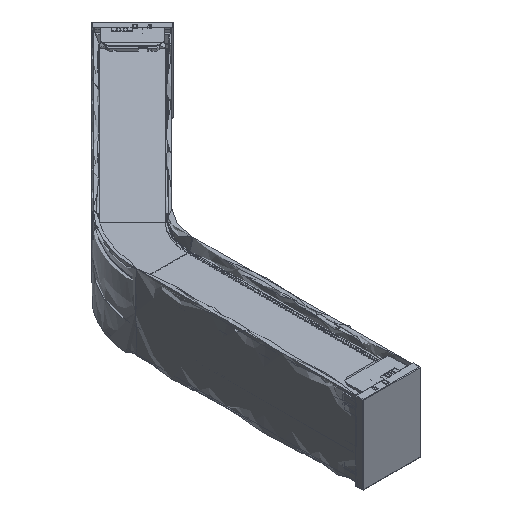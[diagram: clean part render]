
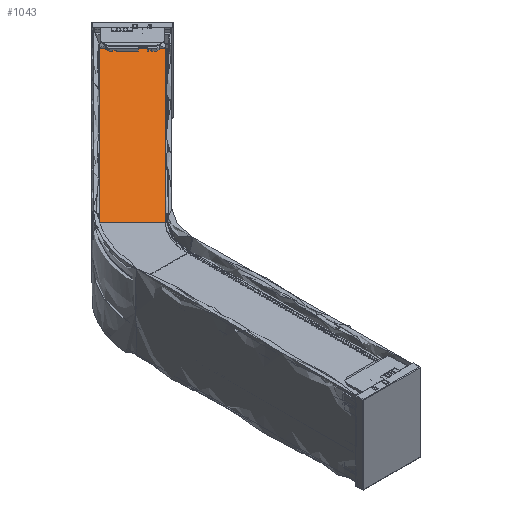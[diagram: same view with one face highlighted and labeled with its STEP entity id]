
A CAD part, isometric view. The second image highlights one B-rep face of the part: STEP entity #1043.
In plain terms, the highlighted free-form (B-spline) face has degree [1, 3] with [2, 4] control points.
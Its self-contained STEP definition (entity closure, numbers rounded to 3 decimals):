
#1043=ADVANCED_FACE('',(#2965),#68511,.T.);
#2965=FACE_OUTER_BOUND('',#4930,.T.);
#4930=EDGE_LOOP('',(#10908,#10909,#10910,#10911));
#10908=ORIENTED_EDGE('',*,*,#46466,.T.);
#10909=ORIENTED_EDGE('',*,*,#46465,.F.);
#10910=ORIENTED_EDGE('',*,*,#46448,.F.);
#10911=ORIENTED_EDGE('',*,*,#46467,.T.);
#22597=PCURVE('',#68502,#33109);
#22631=PCURVE('',#68510,#33143);
#22632=PCURVE('',#68511,#33144);
#22633=PCURVE('',#68511,#33145);
#22634=PCURVE('',#68511,#33146);
#22635=PCURVE('',#68511,#33147);
#22637=PCURVE('',#68512,#33149);
#22644=PCURVE('',#68514,#33156);
#33109=DEFINITIONAL_REPRESENTATION('',(#56157),#164247);
#33143=DEFINITIONAL_REPRESENTATION('',(#56208),#164247);
#33144=DEFINITIONAL_REPRESENTATION('',(#56210),#164247);
#33145=DEFINITIONAL_REPRESENTATION('',(#56211),#164247);
#33146=DEFINITIONAL_REPRESENTATION('',(#56212),#164247);
#33147=DEFINITIONAL_REPRESENTATION('',(#56214),#164247);
#33149=DEFINITIONAL_REPRESENTATION('',(#56217),#164247);
#33156=DEFINITIONAL_REPRESENTATION('',(#56226),#164247);
#41192=SURFACE_CURVE('',#56156,(#22597,#22634),.PCURVE_S1.);
#41209=SURFACE_CURVE('',#56207,(#22631,#22633),.PCURVE_S1.);
#41210=SURFACE_CURVE('',#56209,(#22632,#22644),.PCURVE_S1.);
#41211=SURFACE_CURVE('',#56213,(#22635,#22637),.PCURVE_S1.);
#46448=EDGE_CURVE('',#65400,#65397,#41192,.T.);
#46465=EDGE_CURVE('',#65397,#65405,#41209,.T.);
#46466=EDGE_CURVE('',#65407,#65405,#41210,.T.);
#46467=EDGE_CURVE('',#65400,#65407,#41211,.T.);
#56156=B_SPLINE_CURVE_WITH_KNOTS('',1,(#110891,#110892),.UNSPECIFIED.,.F.,
 .F.,(2,2),(-51.,0.),.UNSPECIFIED.);
#56157=B_SPLINE_CURVE_WITH_KNOTS('',1,(#110893,#110894),.UNSPECIFIED.,.F.,
 .F.,(2,2),(-51.,0.),.UNSPECIFIED.);
#56207=B_SPLINE_CURVE_WITH_KNOTS('',3,(#111014,#111015,#111016,#111017),
 .UNSPECIFIED.,.F.,.F.,(4,4),(0.,202.),.UNSPECIFIED.);
#56208=B_SPLINE_CURVE_WITH_KNOTS('',1,(#111018,#111019),.UNSPECIFIED.,.F.,
 .F.,(2,2),(0.,202.),.UNSPECIFIED.);
#56209=B_SPLINE_CURVE_WITH_KNOTS('',1,(#111020,#111021),.UNSPECIFIED.,.F.,
 .F.,(2,2),(1.5,47.5),.UNSPECIFIED.);
#56210=B_SPLINE_CURVE_WITH_KNOTS('',1,(#111022,#111023),.UNSPECIFIED.,.F.,
 .F.,(2,2),(1.5,47.5),.UNSPECIFIED.);
#56211=B_SPLINE_CURVE_WITH_KNOTS('',1,(#111024,#111025),.UNSPECIFIED.,.F.,
 .F.,(2,2),(0.,202.),.UNSPECIFIED.);
#56212=B_SPLINE_CURVE_WITH_KNOTS('',1,(#111026,#111027),.UNSPECIFIED.,.F.,
 .F.,(2,2),(-51.,0.),.UNSPECIFIED.);
#56213=B_SPLINE_CURVE_WITH_KNOTS('',3,(#111028,#111029,#111030,#111031),
 .UNSPECIFIED.,.F.,.F.,(4,4),(0.,202.),.UNSPECIFIED.);
#56214=B_SPLINE_CURVE_WITH_KNOTS('',1,(#111032,#111033),.UNSPECIFIED.,.F.,
 .F.,(2,2),(0.,202.),.UNSPECIFIED.);
#56217=B_SPLINE_CURVE_WITH_KNOTS('',1,(#111038,#111039),.UNSPECIFIED.,.F.,
 .F.,(2,2),(0.,202.),.UNSPECIFIED.);
#56226=B_SPLINE_CURVE_WITH_KNOTS('',1,(#111058,#111059),.UNSPECIFIED.,.F.,
 .F.,(2,2),(1.5,47.5),.UNSPECIFIED.);
#65397=VERTEX_POINT('',#110832);
#65400=VERTEX_POINT('',#110835);
#65405=VERTEX_POINT('',#110840);
#65407=VERTEX_POINT('',#110842);
#68502=B_SPLINE_SURFACE_WITH_KNOTS('',1,3,((#110690,#110691,#110692,#110693,
#110694,#110695,#110696,#110697,#110698,#110699,#110700),(#110701,#110702,
#110703,#110704,#110705,#110706,#110707,#110708,#110709,#110710,#110711)),
 .UNSPECIFIED.,.F.,.F.,.F.,(2,2),(4,1,1,1,1,1,1,1,4),(0.,51.),(0.,9.651,
19.444,29.332,39.27,49.207,59.096,
68.888,78.54),.UNSPECIFIED.);
#68510=B_SPLINE_SURFACE_WITH_KNOTS('',1,3,((#110792,#110793,#110794,#110795),
(#110796,#110797,#110798,#110799)),.UNSPECIFIED.,.F.,.F.,.F.,(2,2),(4,4),
(103.2,104.4),(0.,210.),.UNSPECIFIED.);
#68511=B_SPLINE_SURFACE_WITH_KNOTS('',1,3,((#110800,#110801,#110802,#110803),
(#110804,#110805,#110806,#110807)),.UNSPECIFIED.,.F.,.F.,.F.,(2,2),(4,4),
(0.,51.),(0.,210.),.UNSPECIFIED.);
#68512=B_SPLINE_SURFACE_WITH_KNOTS('',1,3,((#110808,#110809,#110810,#110811),
(#110812,#110813,#110814,#110815)),.UNSPECIFIED.,.F.,.F.,.F.,(2,2),(4,4),
(51.,52.2),(0.,210.),.UNSPECIFIED.);
#68514=B_SPLINE_SURFACE_WITH_KNOTS('',1,1,((#110824,#110825),(#110826,#110827)),
 .UNSPECIFIED.,.F.,.F.,.F.,(2,2),(2,2),(0.,49.),(0.,46.937),
 .UNSPECIFIED.);
#110690=CARTESIAN_POINT('',(-23.,210.,62.937));
#110691=CARTESIAN_POINT('',(-23.,213.072,62.937));
#110692=CARTESIAN_POINT('',(-22.701,219.262,62.937));
#110693=CARTESIAN_POINT('',(-21.346,228.512,62.937));
#110694=CARTESIAN_POINT('',(-19.066,237.673,62.937));
#110695=CARTESIAN_POINT('',(-15.876,246.606,62.937));
#110696=CARTESIAN_POINT('',(-11.815,255.18,62.937));
#110697=CARTESIAN_POINT('',(-6.949,263.269,62.937));
#110698=CARTESIAN_POINT('',(-1.367,270.768,62.937));
#110699=CARTESIAN_POINT('',(2.799,275.356,62.937));
#110700=CARTESIAN_POINT('',(4.971,277.529,62.937));
#110701=CARTESIAN_POINT('',(23.,210.,62.937));
#110702=CARTESIAN_POINT('',(23.,211.592,62.937));
#110703=CARTESIAN_POINT('',(23.155,214.801,62.937));
#110704=CARTESIAN_POINT('',(23.857,219.595,62.937));
#110705=CARTESIAN_POINT('',(25.039,224.343,62.937));
#110706=CARTESIAN_POINT('',(26.693,228.974,62.937));
#110707=CARTESIAN_POINT('',(28.798,233.418,62.937));
#110708=CARTESIAN_POINT('',(31.32,237.611,62.937));
#110709=CARTESIAN_POINT('',(34.213,241.498,62.937));
#110710=CARTESIAN_POINT('',(36.372,243.876,62.937));
#110711=CARTESIAN_POINT('',(37.498,245.002,62.937));
#110792=CARTESIAN_POINT('',(4.971,277.529,61.937));
#110793=CARTESIAN_POINT('',(54.469,327.026,61.937));
#110794=CARTESIAN_POINT('',(103.966,376.524,61.937));
#110795=CARTESIAN_POINT('',(153.464,426.021,61.937));
#110796=CARTESIAN_POINT('',(4.971,277.529,62.937));
#110797=CARTESIAN_POINT('',(54.469,327.026,62.937));
#110798=CARTESIAN_POINT('',(103.966,376.524,62.937));
#110799=CARTESIAN_POINT('',(153.464,426.021,62.937));
#110800=CARTESIAN_POINT('',(4.971,277.529,62.937));
#110801=CARTESIAN_POINT('',(54.469,327.026,62.937));
#110802=CARTESIAN_POINT('',(103.966,376.524,62.937));
#110803=CARTESIAN_POINT('',(153.464,426.021,62.937));
#110804=CARTESIAN_POINT('',(37.498,245.002,62.937));
#110805=CARTESIAN_POINT('',(86.996,294.499,62.937));
#110806=CARTESIAN_POINT('',(136.493,343.997,62.937));
#110807=CARTESIAN_POINT('',(185.991,393.494,62.937));
#110808=CARTESIAN_POINT('',(37.498,245.002,62.937));
#110809=CARTESIAN_POINT('',(86.996,294.499,62.937));
#110810=CARTESIAN_POINT('',(136.493,343.997,62.937));
#110811=CARTESIAN_POINT('',(185.991,393.494,62.937));
#110812=CARTESIAN_POINT('',(37.498,245.002,61.937));
#110813=CARTESIAN_POINT('',(86.996,294.499,61.937));
#110814=CARTESIAN_POINT('',(136.493,343.997,61.937));
#110815=CARTESIAN_POINT('',(185.991,393.494,61.937));
#110824=CARTESIAN_POINT('',(181.394,386.777,20.457));
#110825=CARTESIAN_POINT('',(181.394,386.777,67.394));
#110826=CARTESIAN_POINT('',(146.746,421.425,20.457));
#110827=CARTESIAN_POINT('',(146.746,421.425,67.394));
#110832=CARTESIAN_POINT('',(4.971,277.529,62.937));
#110835=CARTESIAN_POINT('',(37.498,245.002,62.937));
#110840=CARTESIAN_POINT('',(147.807,420.364,62.937));
#110842=CARTESIAN_POINT('',(180.334,387.837,62.937));
#110891=CARTESIAN_POINT('',(37.498,245.002,62.937));
#110892=CARTESIAN_POINT('',(4.971,277.529,62.937));
#110893=CARTESIAN_POINT('',(51.,78.54));
#110894=CARTESIAN_POINT('',(0.,78.54));
#111014=CARTESIAN_POINT('',(4.971,277.529,62.937));
#111015=CARTESIAN_POINT('',(52.583,325.141,62.937));
#111016=CARTESIAN_POINT('',(100.195,372.752,62.937));
#111017=CARTESIAN_POINT('',(147.807,420.364,62.937));
#111018=CARTESIAN_POINT('',(104.4,0.));
#111019=CARTESIAN_POINT('',(104.4,202.));
#111020=CARTESIAN_POINT('',(180.334,387.837,62.937));
#111021=CARTESIAN_POINT('',(147.807,420.364,62.937));
#111022=CARTESIAN_POINT('',(51.,202.));
#111023=CARTESIAN_POINT('',(0.,202.));
#111024=CARTESIAN_POINT('',(0.,0.));
#111025=CARTESIAN_POINT('',(0.,202.));
#111026=CARTESIAN_POINT('',(51.,0.));
#111027=CARTESIAN_POINT('',(0.,0.));
#111028=CARTESIAN_POINT('',(37.498,245.002,62.937));
#111029=CARTESIAN_POINT('',(85.11,292.614,62.937));
#111030=CARTESIAN_POINT('',(132.722,340.225,62.937));
#111031=CARTESIAN_POINT('',(180.334,387.837,62.937));
#111032=CARTESIAN_POINT('',(51.,0.));
#111033=CARTESIAN_POINT('',(51.,202.));
#111038=CARTESIAN_POINT('',(51.,0.));
#111039=CARTESIAN_POINT('',(51.,202.));
#111058=CARTESIAN_POINT('',(1.5,42.48));
#111059=CARTESIAN_POINT('',(47.5,42.48));
#164247=(
GEOMETRIC_REPRESENTATION_CONTEXT(2)
PARAMETRIC_REPRESENTATION_CONTEXT()
REPRESENTATION_CONTEXT('pspace','')
);
